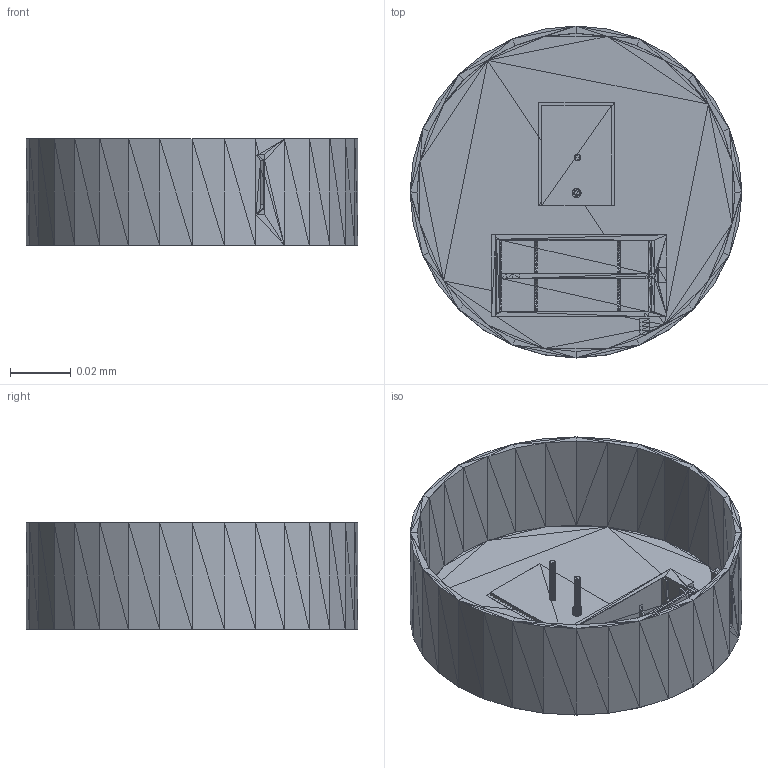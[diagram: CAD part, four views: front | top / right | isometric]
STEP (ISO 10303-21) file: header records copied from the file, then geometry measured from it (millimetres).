
FILE_DESCRIPTION((' Model'),'2;1');
FILE_NAME(' Shape Model','2026-05-29T17:25:13',(''),( ''),' ','','Unknown');
FILE_SCHEMA(('AUTOMOTIVE_DESIGN { 1 0 10303 214 1 1 1 1 }'));
Length unit declared in the file: millimetre
Products named in the file (19):  STEP translator 7.5 1;  STEP translator 7.5 1.1;  STEP translator 7.5 1.2;  STEP translator 7.5 1.3;  STEP translator 7.5 1.4;  STEP translator 7.5 1.5;  STEP translator 7.5 1.6;  STEP translator 7.5 1.7;  STEP translator 7.5 1.8;  STEP translator 7.5 1.9;  STEP translator 7.5 1.10;  STEP translator 7.5 1.11;  STEP translator 7.5 1.12;  STEP translator 7.5 1.13;  STEP translator 7.5 1.14;  STEP translator 7.5 1.15;  STEP translator 7.5 1.16;  STEP translator 7.5 1.17;  STEP translator 7.5 1.18
Assembly tree (18 placements, depth 2):
   STEP translator 7.5 1
     STEP translator 7.5 1.1
     STEP translator 7.5 1.2
     STEP translator 7.5 1.3
     STEP translator 7.5 1.4
     STEP translator 7.5 1.5
     STEP translator 7.5 1.6
     STEP translator 7.5 1.7
     STEP translator 7.5 1.8
     STEP translator 7.5 1.9
     STEP translator 7.5 1.10
     STEP translator 7.5 1.11
     STEP translator 7.5 1.12
     STEP translator 7.5 1.13
     STEP translator 7.5 1.14
     STEP translator 7.5 1.15
     STEP translator 7.5 1.16
     STEP translator 7.5 1.17
     STEP translator 7.5 1.18
Bounding box: 0.11 x 0.11 x 0.04 mm (x, y, z)
Topology: 0 solids, 19 shells, 2013 faces, 3045 edges, 1058 vertices
Faces by surface type: plane 2013
Entity records: 76699 total; most frequent: CARTESIAN_POINT 15294, DIRECTION 10204, LINE 6140, VECTOR 6140, ORIENTED_EDGE 6107, PCURVE 6107, DEFINITIONAL_REPRESENTATION 6107, EDGE_CURVE 3061
